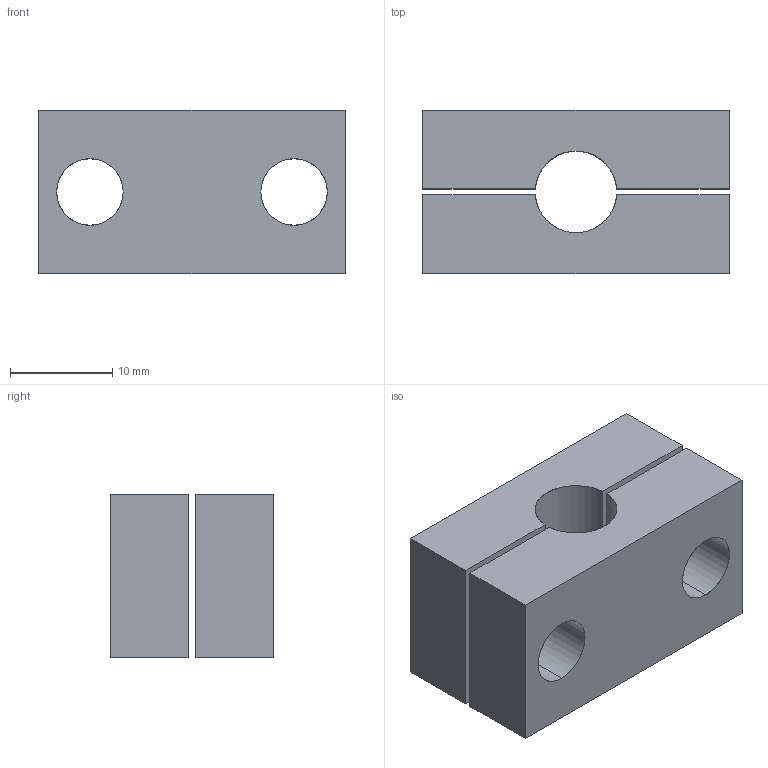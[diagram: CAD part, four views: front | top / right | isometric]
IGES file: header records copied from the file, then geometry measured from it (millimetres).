
Start section: SolidWorks IGES file using analytic representation for surfaces
Global section: file name: C:\Documents and Settings\CAD53\デスクトップ\IGES\N01915-108-0.IGS; native system: SolidWorks 2005 by SolidWorks Corporation; preprocessor: SolidWorks 2005 by SolidWorks Corporation; author: CAD53; date: 070530.094918; units: millimetre
Bounding box: 30 x 16 x 16 mm (x, y, z)
Surface area: 3737 mm2 (no closed solid volume)
Topology: 0 solids, 0 shells, 24 faces, 420 edges, 420 vertices
Faces by surface type: bspline 14, revolution 10
